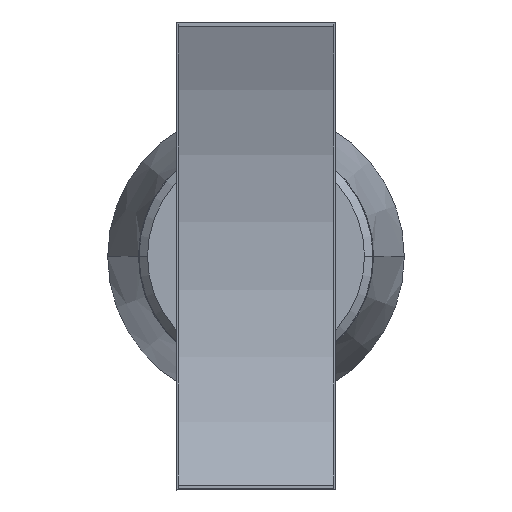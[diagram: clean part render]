
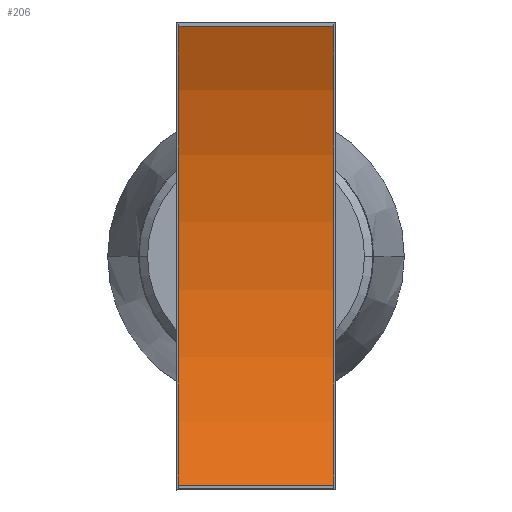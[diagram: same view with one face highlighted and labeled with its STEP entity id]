
A CAD part, top view. The second image highlights one B-rep face of the part: STEP entity #206.
In plain terms, the highlighted cylindrical face has radius 254 mm (diameter 508 mm), a partial arc.
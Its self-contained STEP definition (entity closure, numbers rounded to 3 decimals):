
#206=ADVANCED_FACE('',(#505),#506,.F.);
#505=FACE_OUTER_BOUND('',#935,.T.);
#506=CYLINDRICAL_SURFACE('',#936,254.);
#935=EDGE_LOOP('',(#1339,#1340,#1341,#1342));
#936=AXIS2_PLACEMENT_3D('',#1343,#1344,#1345);
#1339=ORIENTED_EDGE('',*,*,#2472,.T.);
#1340=ORIENTED_EDGE('',*,*,#2473,.F.);
#1341=ORIENTED_EDGE('',*,*,#2474,.T.);
#1342=ORIENTED_EDGE('',*,*,#2469,.T.);
#1343=CARTESIAN_POINT('',(489.425,361.107,234.032));
#1344=DIRECTION('',(-1.0,0.,0.));
#1345=DIRECTION('',(0.,-1.0,0.));
#2469=EDGE_CURVE('',#2920,#2918,#2921,.T.);
#2472=EDGE_CURVE('',#2918,#2924,#2925,.T.);
#2473=EDGE_CURVE('',#2926,#2924,#2927,.T.);
#2474=EDGE_CURVE('',#2926,#2920,#2928,.T.);
#2918=VERTEX_POINT('',#3570);
#2920=VERTEX_POINT('',#3573);
#2921=LINE('',#3574,#3575);
#2924=VERTEX_POINT('',#3579);
#2925=CIRCLE('',#3580,254.);
#2926=VERTEX_POINT('',#3581);
#2927=LINE('',#3582,#3583);
#2928=CIRCLE('',#3584,254.);
#3570=CARTESIAN_POINT('',(416.425,468.884,4.032));
#3573=CARTESIAN_POINT('',(489.425,468.884,4.032));
#3574=CARTESIAN_POINT('',(489.425,468.884,4.032));
#3575=VECTOR('',#5125,1.);
#3579=CARTESIAN_POINT('',(416.425,253.329,4.032));
#3580=AXIS2_PLACEMENT_3D('',#5127,#5128,#5129);
#3581=CARTESIAN_POINT('',(489.425,253.329,4.032));
#3582=CARTESIAN_POINT('',(489.425,253.329,4.032));
#3583=VECTOR('',#5130,1.);
#3584=AXIS2_PLACEMENT_3D('',#5131,#5132,#5133);
#5125=DIRECTION('',(-1.0,0.,0.));
#5127=CARTESIAN_POINT('',(416.425,361.107,234.032));
#5128=DIRECTION('',(-1.0,0.,0.));
#5129=DIRECTION('',(0.,-1.0,0.));
#5130=DIRECTION('',(-1.0,0.,0.));
#5131=CARTESIAN_POINT('',(489.425,361.107,234.032));
#5132=DIRECTION('',(1.0,0.,0.));
#5133=DIRECTION('',(0.,-1.0,0.));
